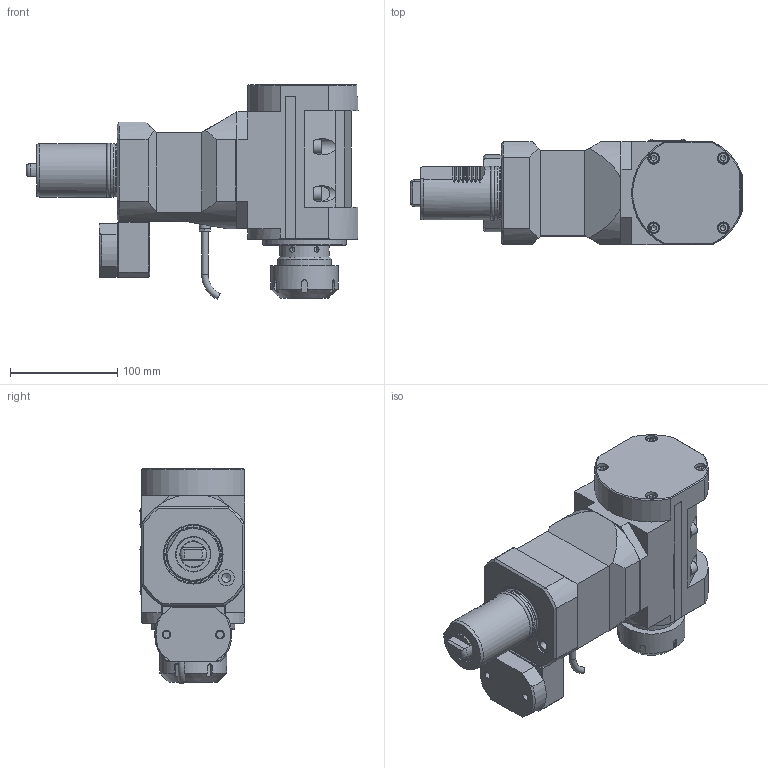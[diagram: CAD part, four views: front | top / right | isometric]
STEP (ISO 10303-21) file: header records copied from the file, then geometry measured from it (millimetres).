
FILE_DESCRIPTION(/* description */ (''),/* implementation_level */ '2;1');
FILE_NAME(/* name */ '131597',/* time_stamp */ '2020-01-15T15:36:09+01:00',/* author */ (''),/* organization */ (''),/* preprocessor_version */ 'ST-DEVELOPER v16.5',/* originating_system */ 'HiCAD 2017 2201.0 Build 268',/* authorisation */ '');
FILE_SCHEMA (('AUTOMOTIVE_DESIGN { 1 0 10303 214 1 1 1 1 }'));
Products named in the file (20): Root; Teil; ABCDEFGHIJKLMNOPQRSTUVWXYZ[\]^_`ABCDEFGHIJKLMNOP햐퉯ǂ; ; DIN 76-M8; NORMTEILGRUPPE_0; Normteilgruppe_0; 131972_Schaft Gr.6 MP630
Assembly tree (19 placements, depth 3):
  Root
    Teil
      ABCDEFGHIJKLMNOPQRSTUVWXYZ[\]^_`ABCDEFGHIJKLMNOP햐퉯ǂ
      ABCDEFGHIJKLMNOPQRSTUVWXYZ[\]^_`ABCDEFGHIJKLMNOP햐퉯ǂ
      ABCDEFGHIJKLMNOPQRSTUVWXYZ[\]^_`ABCDEFGHIJKLMNOP햐퉯ǂ
      ABCDEFGHIJKLMNOPQRSTUVWXYZ[\]^_`ABCDEFGHIJKLMNOP햐퉯ǂ
      ABCDEFGHIJKLMNOPQRSTUVWXYZ[\]^_`ABCDEFGHIJKLMNOP햐퉯ǂ
      ABCDEFGHIJKLMNOPQRSTUVWXYZ[\]^_`ABCDEFGHIJKLMNOP햐퉯ǂ
      ABCDEFGHIJKLMNOPQRSTUVWXYZ[\]^_`ABCDEFGHIJKLMNOP햐퉯ǂ
      ABCDEFGHIJKLMNOPQRSTUVWXYZ[\]^_`ABCDEFGHIJKLMNOP햐퉯ǂ
      ABCDEFGHIJKLMNOPQRSTUVWXYZ[\]^_`ABCDEFGHIJKLMNOP햐퉯ǂ
      ABCDEFGHIJKLMNOPQRSTUVWXYZ[\]^_`ABCDEFGHIJKLMNOP햐퉯ǂ
      ABCDEFGHIJKLMNOPQRSTUVWXYZ[\]^_`ABCDEFGHIJKLMNOP햐퉯ǂ
      
      
      
      DIN 76-M8
      NORMTEILGRUPPE_0
      Normteilgruppe_0
      131972_Schaft Gr.6 MP630
Bounding box: 310 x 98.3 x 200.54 mm (x, y, z)
Volume: 2495870 mm3; surface area: 225491.4 mm2
Topology: 22 solids, 36 shells, 921 faces, 2365 edges, 1549 vertices
Faces by surface type: plane 554, cylinder 217, cone 72, bspline 38, torus 32, sphere 8
Full cylindrical faces by diameter (mm): 2 x8, 2.2 x8, 3.141 x4, 4 x5, 5 x6, 6 x11, 6.466 x14, 6.6 x4, 6.8 x2, 8 x20, 8.5 x1, 8.773 x2, 9 x6, 10 x5, 11 x4, 13 x4, 15 x3, 15.6 x1, 16 x2, 25 x1, 30.5 x2, 33.6 x1, 37.1 x1, 43.8 x1, 46 x1, 48.5 x1, 48.7 x1, 50 x3, 51 x1, 62.7 x1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
Entity records: 59715 total; most frequent: CARTESIAN_POINT 15102, PRESENTATION_STYLE_ASSIGNMENT 4533, OVER_RIDING_STYLED_ITEM 4516, DIRECTION 4346, COLOUR_RGB 4091, DRAUGHTING_PRE_DEFINED_CURVE_FONT 4086, CURVE_STYLE 4086, ORIENTED_EDGE 4086
